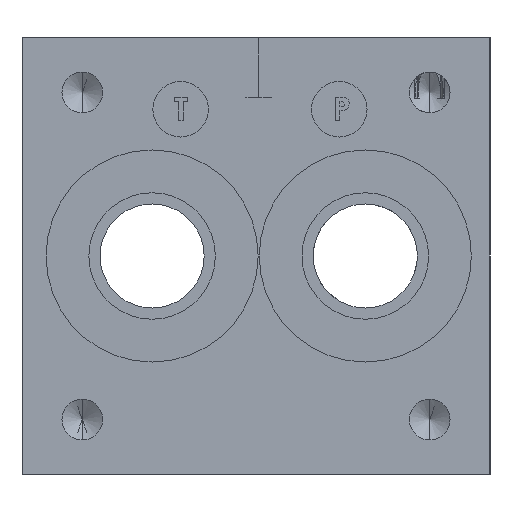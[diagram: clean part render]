
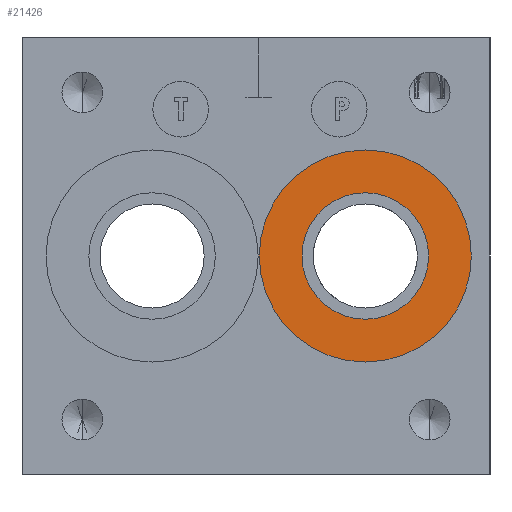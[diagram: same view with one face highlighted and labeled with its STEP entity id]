
A CAD part, left-side view. The second image highlights one B-rep face of the part: STEP entity #21426.
In plain terms, the highlighted planar face has unit normal (-1, 0, 0).
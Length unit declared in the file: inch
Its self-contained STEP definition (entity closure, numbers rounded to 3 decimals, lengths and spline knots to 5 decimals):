
#1260 = CARTESIAN_POINT ( 'NONE',  ( 0.031, 0.786, 1.77385 ) ) ;
#2137 = CIRCLE ( 'NONE', #20226, 0.6684 ) ;
#2454 = CARTESIAN_POINT ( 'NONE',  ( 0.031, 0.786, 1.375 ) ) ;
#3039 = DIRECTION ( 'NONE',  ( 0., 0., -1. ) ) ;
#3760 = DIRECTION ( 'NONE',  ( -1., 0., 0. ) ) ;
#4427 = DIRECTION ( 'NONE',  ( 0., 0., 1. ) ) ;
#4514 = FACE_OUTER_BOUND ( 'NONE', #19688, .T. ) ;
#4886 = VERTEX_POINT ( 'NONE', #1260 ) ;
#5428 = CARTESIAN_POINT ( 'NONE',  ( 0.031, 0.786, 1.375 ) ) ;
#5767 = EDGE_LOOP ( 'NONE', ( #20994, #22212 ) ) ;
#7347 = DIRECTION ( 'NONE',  ( 0., 0., 1. ) ) ;
#7600 = AXIS2_PLACEMENT_3D ( 'NONE', #22204, #14609, #3039 ) ;
#8163 = VERTEX_POINT ( 'NONE', #16393 ) ;
#10270 = CARTESIAN_POINT ( 'NONE',  ( 0.031, 0.786, 2.0434 ) ) ;
#10337 = CIRCLE ( 'NONE', #22543, 0.39885 ) ;
#10857 = DIRECTION ( 'NONE',  ( -1., 0., 0. ) ) ;
#12621 = EDGE_CURVE ( 'NONE', #4886, #14545, #10337, .T. ) ;
#12810 = EDGE_CURVE ( 'NONE', #24193, #8163, #2137, .T. ) ;
#13157 = ORIENTED_EDGE ( 'NONE', *, *, #16423, .T. ) ;
#14545 = VERTEX_POINT ( 'NONE', #21685 ) ;
#14609 = DIRECTION ( 'NONE',  ( 1., 0., 0. ) ) ;
#15312 = CARTESIAN_POINT ( 'NONE',  ( 0.031, 0.786, 1.375 ) ) ;
#15990 = DIRECTION ( 'NONE',  ( -1., 0., 0. ) ) ;
#16393 = CARTESIAN_POINT ( 'NONE',  ( 0.031, 0.786, 0.7066 ) ) ;
#16423 = EDGE_CURVE ( 'NONE', #8163, #24193, #21058, .T. ) ;
#16889 = AXIS2_PLACEMENT_3D ( 'NONE', #5428, #18920, #7347 ) ;
#17254 = DIRECTION ( 'NONE',  ( 0., 0., 1. ) ) ;
#17657 = ORIENTED_EDGE ( 'NONE', *, *, #12810, .T. ) ;
#18920 = DIRECTION ( 'NONE',  ( -1., 0., 0. ) ) ;
#19688 = EDGE_LOOP ( 'NONE', ( #17657, #13157 ) ) ;
#20226 = AXIS2_PLACEMENT_3D ( 'NONE', #2454, #15990, #4427 ) ;
#20503 = FACE_BOUND ( 'NONE', #5767, .T. ) ;
#20533 = AXIS2_PLACEMENT_3D ( 'NONE', #22425, #10857, #24325 ) ;
#20994 = ORIENTED_EDGE ( 'NONE', *, *, #12621, .F. ) ;
#21058 = CIRCLE ( 'NONE', #20533, 0.6684 ) ;
#21356 = CIRCLE ( 'NONE', #16889, 0.39885 ) ;
#21426 = ADVANCED_FACE ( 'NONE', ( #20503, #4514 ), #24211, .F. ) ;
#21685 = CARTESIAN_POINT ( 'NONE',  ( 0.031, 0.786, 0.97615 ) ) ;
#22204 = CARTESIAN_POINT ( 'NONE',  ( 0.031, 0.786, 1.375 ) ) ;
#22212 = ORIENTED_EDGE ( 'NONE', *, *, #22858, .F. ) ;
#22425 = CARTESIAN_POINT ( 'NONE',  ( 0.031, 0.786, 1.375 ) ) ;
#22543 = AXIS2_PLACEMENT_3D ( 'NONE', #15312, #3760, #17254 ) ;
#22858 = EDGE_CURVE ( 'NONE', #14545, #4886, #21356, .T. ) ;
#24193 = VERTEX_POINT ( 'NONE', #10270 ) ;
#24211 = PLANE ( 'NONE',  #7600 ) ;
#24325 = DIRECTION ( 'NONE',  ( 0., 0., 1. ) ) ;
